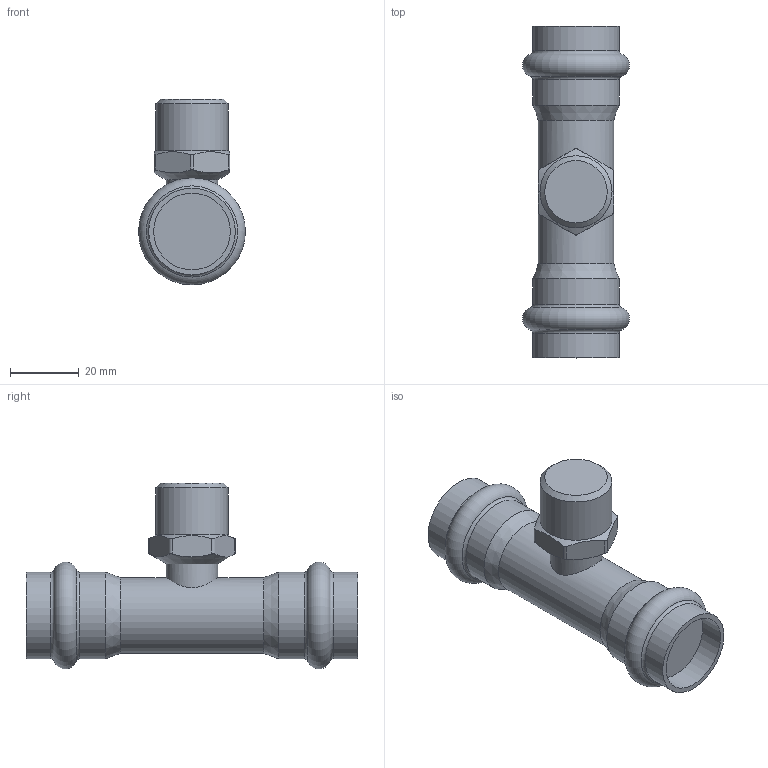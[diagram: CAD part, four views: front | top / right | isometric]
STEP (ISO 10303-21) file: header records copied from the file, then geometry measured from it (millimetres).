
FILE_DESCRIPTION(('STEP AP203'), '1');
FILE_NAME('VTi.933.I.220422', '', ('UNSPECIFIED'), ('UNSPECIFIED'), 'C3D Converter', 'C3D Toolkit', '');
FILE_SCHEMA(('CONFIG_CONTROL_DESIGN'));
Length unit declared in the file: millimetre
Bounding box: 31.08 x 96.5 x 54.04 mm (x, y, z)
Volume: 48850.9 mm3; surface area: 11989.6 mm2
Topology: 1 solids, 1 shells, 37 faces, 84 edges, 51 vertices
Faces by surface type: cylinder 15, plane 11, torus 6, cone 5
Full cylindrical faces by diameter (mm): 15 x1, 20.955 x1, 22 x1, 22.3 x2, 25.2 x4
Entity records: 1953 total; most frequent: CARTESIAN_POINT 1208, DIRECTION 132, ORIENTED_EDGE 126, EDGE_CURVE 63, AXIS2_PLACEMENT_3D 60, EDGE_LOOP 60, VERTEX_POINT 51, ADVANCED_FACE 37
